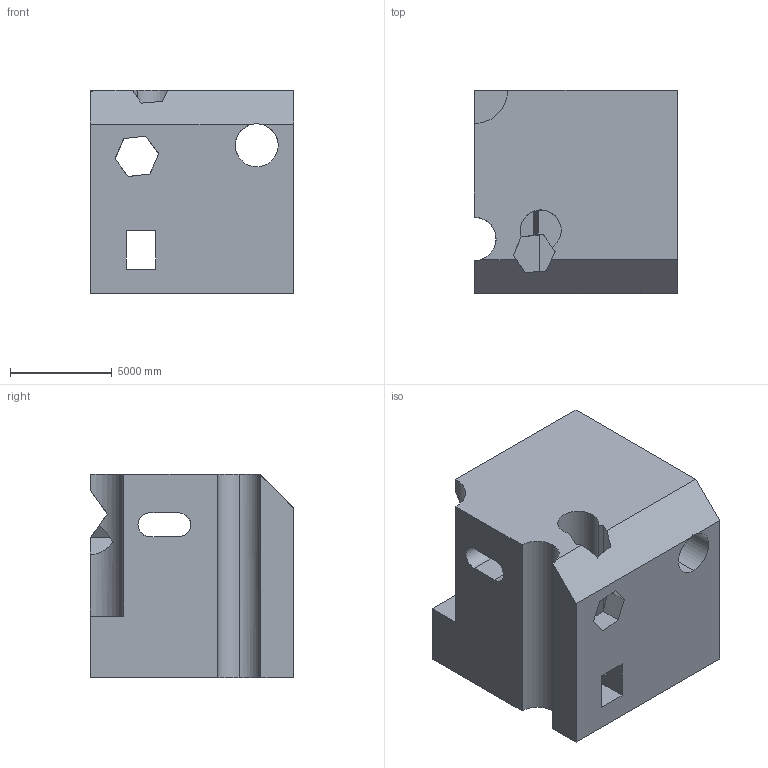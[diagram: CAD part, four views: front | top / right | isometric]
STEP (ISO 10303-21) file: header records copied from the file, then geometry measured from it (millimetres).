
FILE_DESCRIPTION (( 'STEP AP203' ), '1' );
FILE_NAME ('928.STEP', '2022-07-29T14:23:51', ( 'user' ), ( '' ), 'SwSTEP 2.0', 'SolidWorks 2021', '' );
FILE_SCHEMA (( 'CONFIG_CONTROL_DESIGN' ));
Length unit declared in the file: centimetre
Products named in the file (1): 928
Bounding box: 10000 x 10000 x 10000 mm (x, y, z)
Volume: 809928315541 mm3; surface area: 827380637.5 mm2
Topology: 1 solids, 1 shells, 53 faces, 180 edges, 120 vertices
Faces by surface type: plane 41, cylinder 12
Entity records: 2502 total; most frequent: CARTESIAN_POINT 885, ORIENTED_EDGE 360, DIRECTION 282, EDGE_CURVE 180, LINE 136, VECTOR 136, VERTEX_POINT 120, AXIS2_PLACEMENT_3D 73
